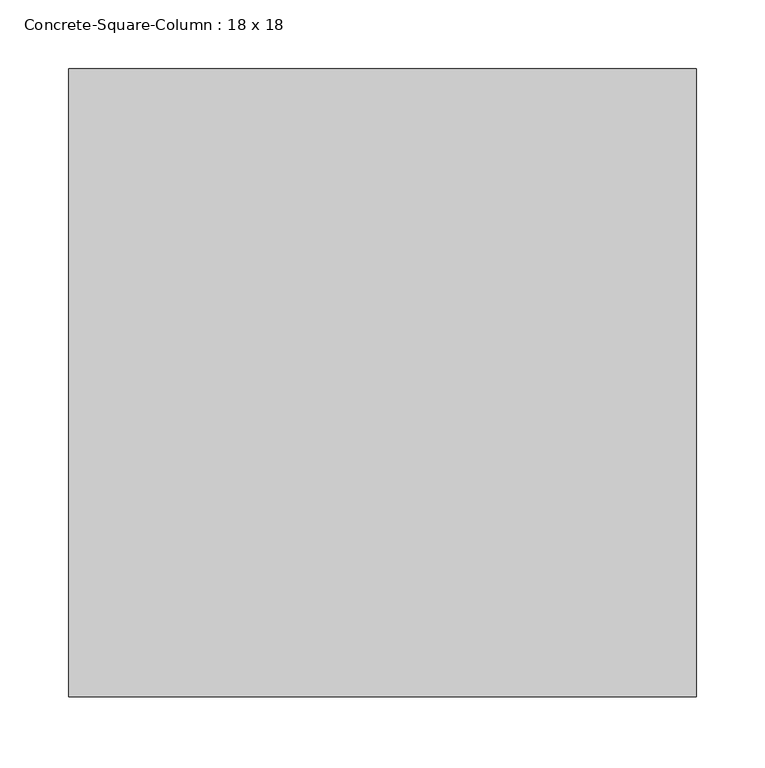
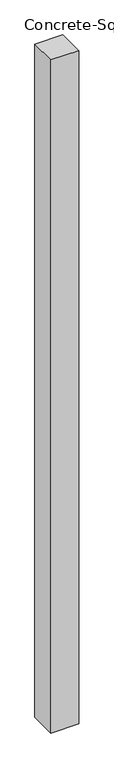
"""IFC4 building model written with IfcOpenShell, lengths in millimetres: column geometry, Concrete-Square-Column : 18 x 18."""

from ifc_helpers import new_model, si_unit, origin, origin_with_axes, place, context, project, spatial, polyline, outline, extrude, source, transform, mapped, element, save


def concrete_square_column_18_x_18_478389e8(model_context):
    return source(origin(), model_context, "Body", "SweptSolid", [
        extrude(outline(polyline([(228.6, -228.6), (-228.6, -228.6), (-228.6, 228.6), (228.6, 228.6), (228.6, -228.6)])), origin_with_axes(), (0.0, 0.0, 1.0), 11734.8),
    ])


if __name__ == "__main__":
    model = new_model("IFC4")
    model_context = context("Model", 3, world=origin())
    ifc_project = project(units=[si_unit("LENGTHUNIT", "METRE", prefix="MILLI")], contexts=[model_context])
    site = spatial("IfcSite", under=ifc_project)
    building = spatial("IfcBuilding", under=site)
    placement = place(None, origin())
    concrete_square_column_18_x_18_shape = concrete_square_column_18_x_18_478389e8(model_context)
    element("IfcColumn", 1, ObjectType="Concrete-Square-Column : 18 x 18", at=placement, inside=building, context=model_context, shape_type="MappedRepresentation", body=[
        mapped(concrete_square_column_18_x_18_shape, transform((0.0, 0.0, 0.0), x_axis=(1.0, 0.0, 0.0), y_axis=(0.0, 1.0, 0.0), z_axis=(0.0, 0.0, 1.0))),
    ])
    save(model, "model.ifc")
